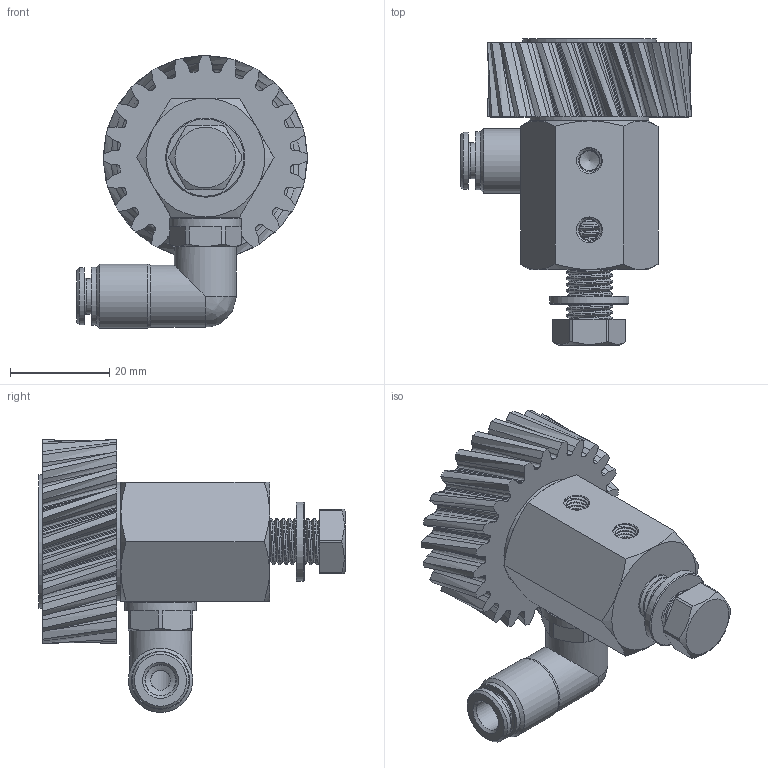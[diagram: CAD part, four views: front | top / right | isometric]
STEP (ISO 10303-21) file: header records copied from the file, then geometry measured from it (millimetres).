
FILE_DESCRIPTION (( 'STEP AP214' ), '1' );
FILE_NAME ('012_13_015_15_24BLZ.STEP', '2026-04-14T09:14:24', ( '' ), ( '' ), 'SwSTEP 2.0', 'SolidWorks 2022', '' );
FILE_SCHEMA (( 'AUTOMOTIVE_DESIGN' ));
Length unit declared in the file: millimetre
Products named in the file (13): H202242_HDS022_6_M10X1_08.05.17(1); U_Scheibe_8,4; 012_13b_01_winklige_Achse_lang_M8_1; Modul_1.5_S_L; 12012_06_00_Scheibe-CRS-VA.SLDASM; 12012_06_01_Scheibe-CRS-VA_27.SLDASM; Schraube_M8_20; OR 7.2X1.9_1; 012_06_Senkschraube; DR6-C_HDX_25.07.16_1; RIVOLUZIONE_0_2; RH202242; 012_13_015_15_24BLZ
Assembly tree (12 placements, depth 3):
  012_13_015_15_24BLZ
    012_13b_01_winklige_Achse_lang_M8_1
    Schraube_M8_20
    U_Scheibe_8,4
    H202242_HDS022_6_M10X1_08.05.17(1)
      OR 7.2X1.9_1
      RH202242
      DR6-C_HDX_25.07.16_1
      RIVOLUZIONE_0_2
    12012_06_00_Scheibe-CRS-VA.SLDASM
    12012_06_01_Scheibe-CRS-VA_27.SLDASM
    012_06_Senkschraube
    Modul_1.5_S_L
Bounding box: 46.6 x 61.9 x 55.1 mm (x, y, z)
Volume: 37546.3 mm3; surface area: 19320.3 mm2
Topology: 11 solids, 11 shells, 760 faces, 2095 edges, 1390 vertices
Faces by surface type: plane 317, bspline 308, cylinder 79, cone 53, torus 3
Full cylindrical faces by diameter (mm): 3 x1, 4 x2, 6 x1, 6.2 x1, 6.3 x1, 6.5 x1, 7.2 x1, 8.4 x1, 8.5 x1, 9 x10, 9.9 x1, 10 x3, 10.1 x2, 10.3 x1, 11.5 x1, 11.7 x1, 12.5 x2, 13 x1, 14.5 x1, 16 x1, 24 x1, 27 x1
Entity records: 76908 total; most frequent: CARTESIAN_POINT 58906, ORIENTED_EDGE 3898, DIRECTION 2570, EDGE_CURVE 1949, VERTEX_POINT 1325, LINE 1078, VECTOR 1078, EDGE_LOOP 874
